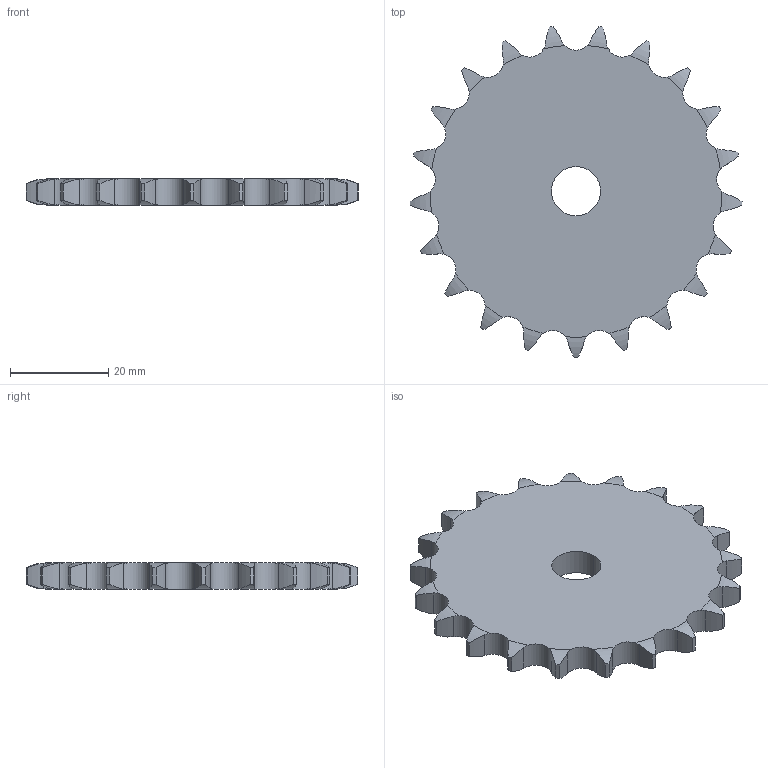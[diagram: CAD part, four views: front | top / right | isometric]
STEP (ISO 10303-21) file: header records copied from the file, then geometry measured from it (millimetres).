
FILE_DESCRIPTION((''),'2;1');
FILE_NAME('500-101-0021_PRT','2021-02-12T',('Brieden'),('Brieden'),'PRO/ENGINEER BY PARAMETRIC TECHNOLOGY CORPORATION, 2010160','PRO/ENGINEER BY PARAMETRIC TECHNOLOGY CORPORATION, 2010160','');
FILE_SCHEMA(('AUTOMOTIVE_DESIGN { 1 0 10303 214 1 1 1 1 }'));
Length unit declared in the file: millimetre
Products named in the file (1): 500-101-0021_PRT
Bounding box: 67.67 x 67.48 x 5.3 mm (x, y, z)
Volume: 15073.3 mm3; surface area: 7417.1 mm2
Topology: 1 solids, 1 shells, 130 faces, 384 edges, 256 vertices
Faces by surface type: cylinder 86, torus 42, plane 2
Entity records: 6294 total; most frequent: CARTESIAN_POINT 1799, ORIENTED_EDGE 768, DIRECTION 606, PRESENTATION_STYLE_ASSIGNMENT 385, STYLED_ITEM 385, CURVE_STYLE 384, EDGE_CURVE 384, AXIS2_PLACEMENT_3D 260
